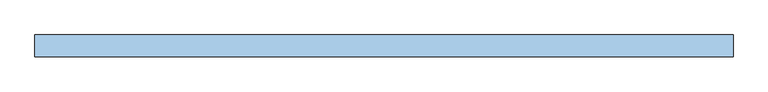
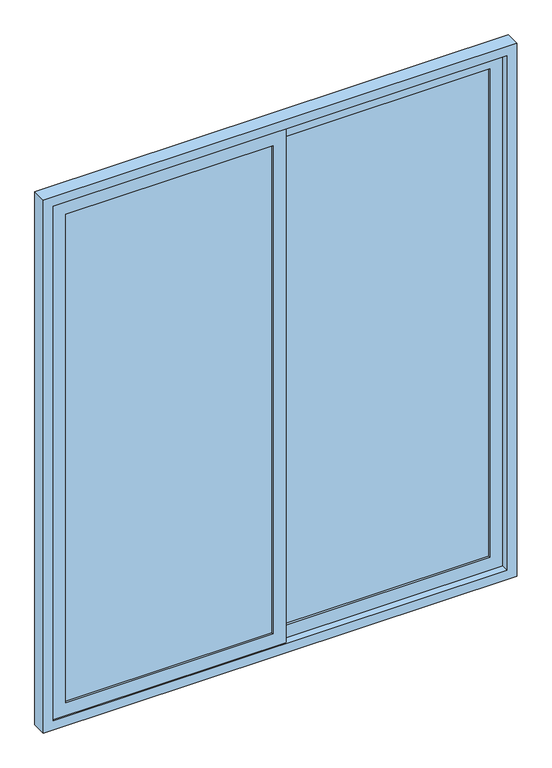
"""IFC4 building model written with IfcOpenShell, lengths in millimetres: window geometry, A18 Ventana_Corrediza_2 hojas : Ventana_Corrediza_2 hojas 195x260."""

from ifc_helpers import new_model, si_unit, frame, origin, place, context, project, spatial, polyline, outline, extrude, source, transform, mapped, element, save


def window_7d360ee6(model_context):
    return source(origin(), model_context, "Body", "SweptSolid", [
        extrude(outline(polyline([(-988.4, 13.9), (-30.0, 13.9), (-30.0, 3.9), (-988.4, 3.9), (-988.4, 13.9)])), frame((0.0, 0.0, 108.5), z_axis=(0.0, 0.0, 1.0), x_axis=(1.0, 0.0, 0.0)), (0.0, 0.0, 1.0), 2383.0),
        extrude(outline(polyline([(2554.8, -1048.3), (45.2, -1048.3), (45.2, 30.0), (2554.8, 30.0), (2554.8, -1048.3)]), holes=[polyline([(2491.5, -988.4), (2491.5, -30.0), (108.5, -30.0), (108.5, -988.4), (2491.5, -988.4)])]), frame((0.0, -5.6, 0.0), z_axis=(0.0, 1.0, 0.0), x_axis=(0.0, 0.0, 1.0)), (0.0, 0.0, 1.0), 29.0),
        extrude(outline(polyline([(30.0, 42.9), (988.4, 42.9), (988.4, 32.9), (30.0, 32.9), (30.0, 42.9)])), frame((0.0, 0.0, 108.5), z_axis=(0.0, 0.0, 1.0), x_axis=(1.0, 0.0, 0.0)), (0.0, 0.0, 1.0), 2383.0),
        extrude(outline(polyline([(2554.8, -30.0), (45.2, -30.0), (45.2, 1048.3), (2554.8, 1048.3), (2554.8, -30.0)]), holes=[polyline([(2491.5, 30.0), (2491.5, 988.4), (108.5, 988.4), (108.5, 30.0), (2491.5, 30.0)])]), frame((0.0, 23.4, 0.0), z_axis=(0.0, 1.0, 0.0), x_axis=(0.0, 0.0, 1.0)), (0.0, 0.0, 1.0), 29.0),
        extrude(outline(polyline([(2600.0, -1093.5), (0.0, -1093.5), (0.0, 1093.5), (2600.0, 1093.5), (2600.0, -1093.5)]), holes=[polyline([(2554.8, -1048.3), (2554.8, 1048.3), (45.2, 1048.3), (45.2, -1048.3), (2554.8, -1048.3)])]), frame((0.0, -10.7, 0.0), z_axis=(0.0, 1.0, 0.0), x_axis=(0.0, 0.0, 1.0)), (0.0, 0.0, 1.0), 68.2),
    ])


if __name__ == "__main__":
    model = new_model("IFC4")
    model_context = context("Model", 3, world=origin())
    ifc_project = project(units=[si_unit("LENGTHUNIT", "METRE", prefix="MILLI")], contexts=[model_context])
    site = spatial("IfcSite", under=ifc_project)
    building = spatial("IfcBuilding", under=site)
    placement = place(None, origin())
    window_shape = window_7d360ee6(model_context)
    element("IfcWindow", 1, ObjectType="A18 Ventana_Corrediza_2 hojas : Ventana_Corrediza_2 hojas 195x260", at=placement, inside=building, context=model_context, shape_type="MappedRepresentation", body=[
        mapped(window_shape, transform((0.0, 0.0, 0.0), x_axis=(1.0, 0.0, 0.0), y_axis=(0.0, 1.0, 0.0), z_axis=(0.0, 0.0, 1.0))),
    ])
    save(model, "model.ifc")
